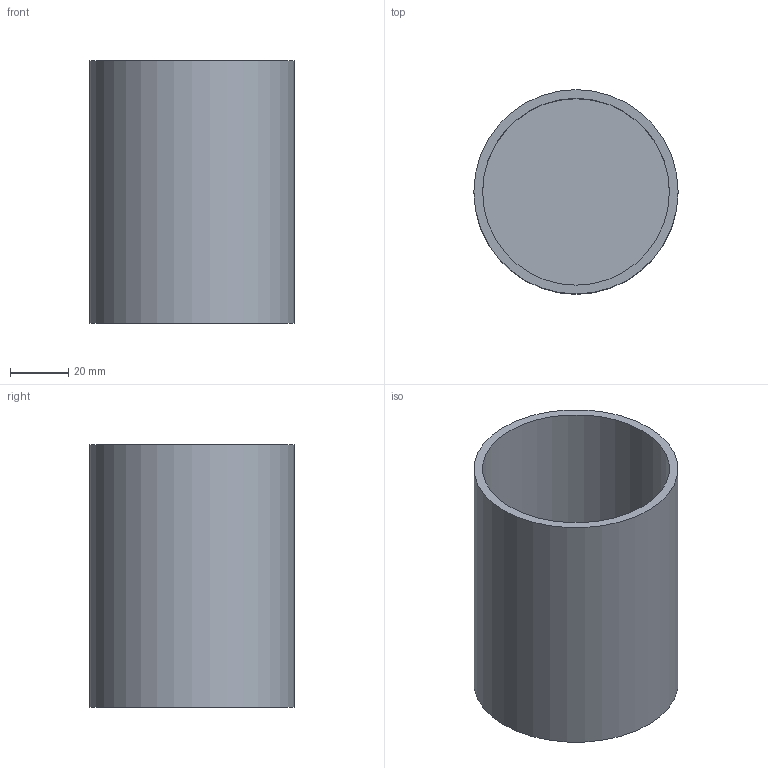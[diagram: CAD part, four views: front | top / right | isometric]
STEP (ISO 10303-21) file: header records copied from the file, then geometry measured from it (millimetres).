
FILE_DESCRIPTION(('Open CASCADE Model'),'2;1');
FILE_NAME('Open CASCADE Shape Model','2026-10-21T16:58:02',('Author'),( 'Open CASCADE'),'Open CASCADE STEP processor 7.9','Open CASCADE 7.9' ,'Unknown');
FILE_SCHEMA(('AUTOMOTIVE_DESIGN { 1 0 10303 214 1 1 1 1 }'));
Length unit declared in the file: millimetre
Products named in the file (3): P03_illustrative; weighted_cup_0; cup_ballast_lid_1
Assembly tree (2 placements, depth 2):
  P03_illustrative
    weighted_cup_0
    cup_ballast_lid_1
Bounding box: 70 x 70 x 90 mm (x, y, z)
Volume: 82015.5 mm3; surface area: 50512.2 mm2
Topology: 2 solids, 2 shells, 24 faces, 39 edges, 26 vertices
Faces by surface type: cylinder 13, plane 11
Full cylindrical faces by diameter (mm): 2.5 x4, 3.4 x4, 46 x1, 57.6 x1, 58 x1, 64 x1, 70 x1
Entity records: 1199 total; most frequent: CARTESIAN_POINT 260, DIRECTION 182, ORIENTED_EDGE 78, PCURVE 78, DEFINITIONAL_REPRESENTATION 78, LINE 65, VECTOR 65, AXIS2_PLACEMENT_3D 53
